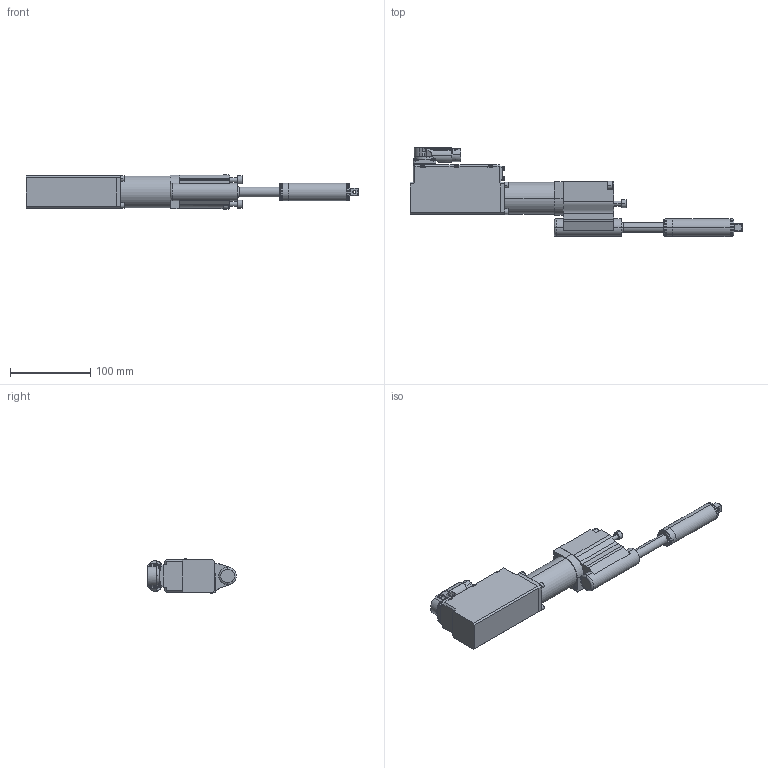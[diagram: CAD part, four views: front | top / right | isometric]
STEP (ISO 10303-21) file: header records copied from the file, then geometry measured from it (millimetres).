
FILE_DESCRIPTION (( 'STEP AP214' ), '1' );
FILE_NAME ('70121608_KSX1048OF50.STEP', '2020-01-15T13:29:23', ( 'admin' ), ( '' ), 'SwSTEP 2.0', 'SolidWorks 2017', '' );
FILE_SCHEMA (( 'AUTOMOTIVE_DESIGN' ));
Length unit declared in the file: millimetre
Products named in the file (10): 7002230_3; 70111046; 70111007; 70111012; 70111000_KSX1_Stecker_vorne; 70111180_Pos_vorne; 70111180; 70111180_2; 70111000; 70121608_KSX1048OF50
Assembly tree (9 placements, depth 4):
  70121608_KSX1048OF50
    70111000_KSX1_Stecker_vorne
      70111000
      70111180_Pos_vorne
        70111180_2
        70111180
    70111012
    70111007
    70111046
    7002230_3
Bounding box: 413.5 x 110.84 x 42.53 mm (x, y, z)
Volume: 580675.8 mm3; surface area: 107399.4 mm2
Topology: 11 solids, 13 shells, 1914 faces, 4891 edges, 3089 vertices
Faces by surface type: cylinder 767, plane 619, cone 318, torus 119, sphere 48, bspline 43
Entity records: 69646 total; most frequent: CARTESIAN_POINT 16571, ORIENTED_EDGE 9642, DIRECTION 9271, EDGE_CURVE 4821, AXIS2_PLACEMENT_3D 3692, VERTEX_POINT 3089, EDGE_LOOP 2094, FACE_OUTER_BOUND 1914
